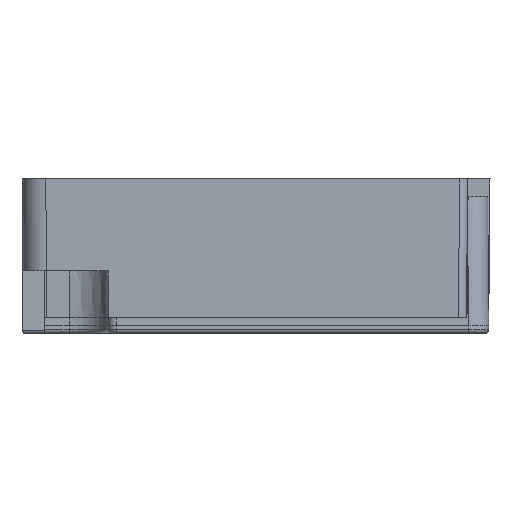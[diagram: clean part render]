
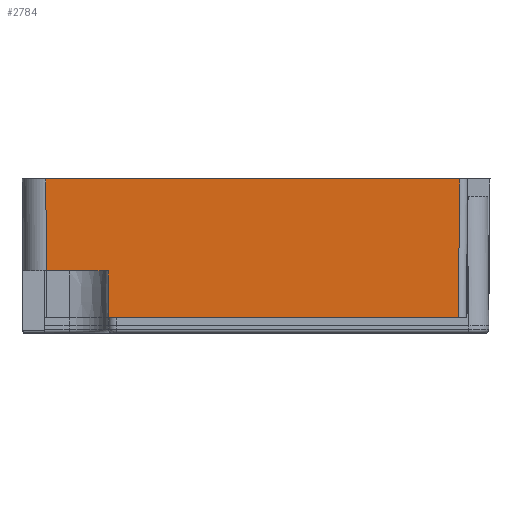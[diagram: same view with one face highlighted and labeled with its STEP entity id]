
A CAD part, left-side view. The second image highlights one B-rep face of the part: STEP entity #2784.
In plain terms, the highlighted planar face has unit normal (-1, 0, -0.009).
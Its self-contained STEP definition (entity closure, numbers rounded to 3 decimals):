
#117=DIRECTION('',(0.,1.,0.));
#118=VECTOR('',#117,22.446);
#119=CARTESIAN_POINT('',(-14.922,-12.972,0.));
#120=LINE('',#119,#118);
#339=DIRECTION('',(0.009,-0.009,-1.));
#340=VECTOR('',#339,5.9);
#341=CARTESIAN_POINT('',(-15.,13.5,8.9));
#342=LINE('',#341,#340);
#343=DIRECTION('',(0.,1.,0.));
#344=VECTOR('',#343,26.55);
#345=CARTESIAN_POINT('',(-15.,-13.05,8.9));
#346=LINE('',#345,#344);
#347=DIRECTION('',(-0.009,-0.009,1.));
#348=VECTOR('',#347,8.901);
#349=CARTESIAN_POINT('',(-14.922,-12.972,0.));
#350=LINE('',#349,#348);
#351=DIRECTION('',(0.009,-0.009,-1.));
#352=VECTOR('',#351,3.);
#353=CARTESIAN_POINT('',(-14.949,9.5,3.));
#354=LINE('',#353,#352);
#359=DIRECTION('',(0.,1.,0.));
#360=VECTOR('',#359,3.949);
#361=CARTESIAN_POINT('',(-14.949,9.5,3.));
#362=LINE('',#361,#360);
#885=CARTESIAN_POINT('',(-15.,-13.05,8.9));
#1809=CARTESIAN_POINT('',(-15.,13.5,8.9));
#2148=CARTESIAN_POINT('',(-14.922,-12.972,0.));
#2149=CARTESIAN_POINT('',(-14.922,9.474,0.));
#2150=VERTEX_POINT('',#2148);
#2151=VERTEX_POINT('',#2149);
#2269=VERTEX_POINT('',#885);
#2333=VERTEX_POINT('',#1809);
#2386=CARTESIAN_POINT('',(-14.949,9.5,3.));
#2387=VERTEX_POINT('',#2386);
#2388=CARTESIAN_POINT('',(-14.949,13.449,3.));
#2389=VERTEX_POINT('',#2388);
#2766=CARTESIAN_POINT('',(-15.,17.021,8.9));
#2767=DIRECTION('',(-1.,0.,-0.009));
#2768=DIRECTION('',(0.,1.,0.));
#2769=AXIS2_PLACEMENT_3D('',#2766,#2767,#2768);
#2770=PLANE('',#2769);
#2772=ORIENTED_EDGE('',*,*,#2771,.T.);
#2774=ORIENTED_EDGE('',*,*,#2773,.F.);
#2776=ORIENTED_EDGE('',*,*,#2775,.F.);
#2778=ORIENTED_EDGE('',*,*,#2777,.F.);
#2779=ORIENTED_EDGE('',*,*,#2655,.T.);
#2781=ORIENTED_EDGE('',*,*,#2780,.F.);
#2782=EDGE_LOOP('',(#2772,#2774,#2776,#2778,#2779,#2781));
#2783=FACE_OUTER_BOUND('',#2782,.F.);
#2784=ADVANCED_FACE('',(#2783),#2770,.T.);
#2655=EDGE_CURVE('',#2150,#2151,#120,.T.);
#2771=EDGE_CURVE('',#2387,#2389,#362,.T.);
#2773=EDGE_CURVE('',#2333,#2389,#342,.T.);
#2775=EDGE_CURVE('',#2269,#2333,#346,.T.);
#2777=EDGE_CURVE('',#2150,#2269,#350,.T.);
#2780=EDGE_CURVE('',#2387,#2151,#354,.T.);
